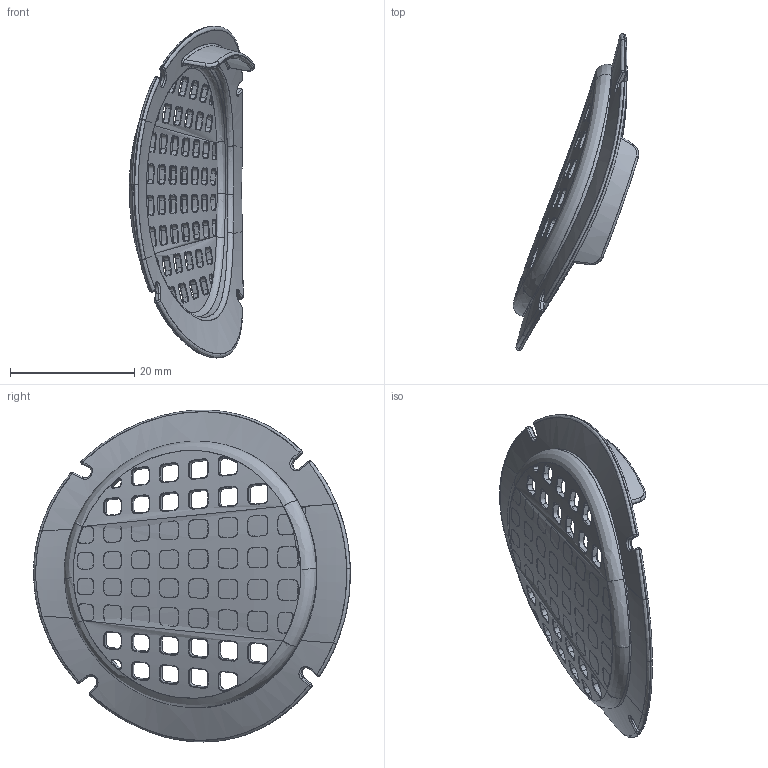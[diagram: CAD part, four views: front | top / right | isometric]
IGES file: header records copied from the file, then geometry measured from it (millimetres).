
Start section: Speaker 2 inch..SLDPRT - PrototypeComponentType Speaker 2 inch..SLDPRT - PrototypeComponentType Speaker 2 inch..SLDPRT - PrototypeComponentType Speaker 2 inch..SLDPRT - PrototypeComponentType 10 rocker-switch-KCD1..SLDPRT - PrototypeComponentType 10 rocker-switch-KCD1..SLDPRT - PrototypeComponentType 10 rocker-switch-KCD1..SLDPRT - PrototypeComponentType 10 rocker-switch-KCD1..SLDPRT - PrototypeCo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
Global section: file name: E:\models\grille_speaker_right.igs; native system: Rhinoceros ( Dec 10 2024 ); preprocessor: Trout Lake IGES 012 Dec 10 2024; date: 241217.133122; units: millimetre
Bounding box: 20.21 x 51.04 x 53.48 mm (x, y, z)
Surface area: 5564.1 mm2 (no closed solid volume)
Topology: 0 solids, 0 shells, 1476 faces, 8915 edges, 8907 vertices
Faces by surface type: bspline 1476
